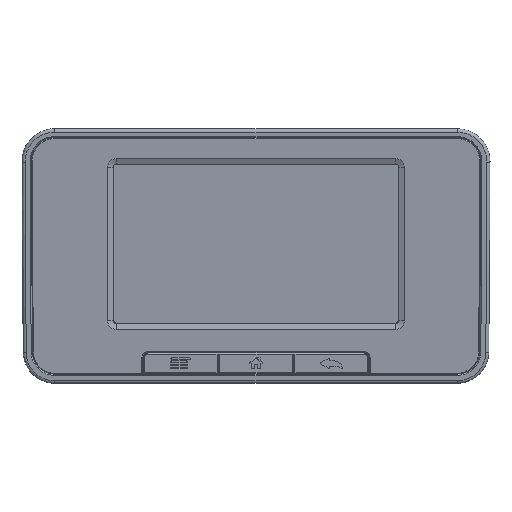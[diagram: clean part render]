
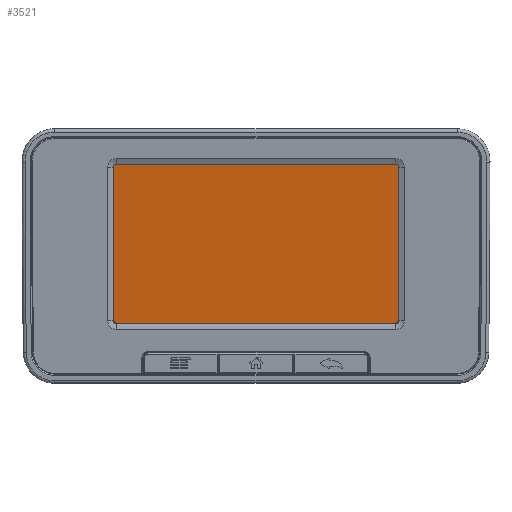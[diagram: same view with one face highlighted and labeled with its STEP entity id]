
A CAD part, top view. The second image highlights one B-rep face of the part: STEP entity #3521.
In plain terms, the highlighted planar face has unit normal (0, -0.174, 0.985).
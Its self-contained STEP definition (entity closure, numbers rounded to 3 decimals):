
#18 = LINE ( 'NONE', #7805, #476 ) ;
#132 = AXIS2_PLACEMENT_3D ( 'NONE', #8923, #2160, #5631 ) ;
#181 = VERTEX_POINT ( 'NONE', #10947 ) ;
#285 = CARTESIAN_POINT ( 'NONE',  ( 47.509, -20.996, 16.254 ) ) ;
#457 = DIRECTION ( 'NONE',  ( 1., 0., 0. ) ) ;
#476 = VECTOR ( 'NONE', #754, 1000. ) ;
#754 = DIRECTION ( 'NONE',  ( 0., -0.985, -0.174 ) ) ;
#1103 = ORIENTED_EDGE ( 'NONE', *, *, #4856, .F. ) ;
#1176 = DIRECTION ( 'NONE',  ( 0., 0.174, -0.985 ) ) ;
#1227 = VERTEX_POINT ( 'NONE', #4828 ) ;
#1576 = EDGE_CURVE ( 'NONE', #1971, #1227, #3680, .T. ) ;
#1971 = VERTEX_POINT ( 'NONE', #6151 ) ;
#2032 = VERTEX_POINT ( 'NONE', #3595 ) ;
#2160 = DIRECTION ( 'NONE',  ( 0., -0.174, 0.985 ) ) ;
#2198 = DIRECTION ( 'NONE',  ( 0., 0.174, -0.985 ) ) ;
#2334 = AXIS2_PLACEMENT_3D ( 'NONE', #9593, #5204, #5993 ) ;
#2499 = VERTEX_POINT ( 'NONE', #11009 ) ;
#2632 = ORIENTED_EDGE ( 'NONE', *, *, #10254, .F. ) ;
#3017 = FACE_OUTER_BOUND ( 'NONE', #4719, .T. ) ;
#3416 = CIRCLE ( 'NONE', #11055, 1.063 ) ;
#3521 = ADVANCED_FACE ( 'NONE', ( #3017 ), #10605, .T. ) ;
#3595 = CARTESIAN_POINT ( 'NONE',  ( -47.509, -20.996, 16.254 ) ) ;
#3680 = CIRCLE ( 'NONE', #5661, 1.063 ) ;
#3741 = DIRECTION ( 'NONE',  ( 0., 0.985, 0.174 ) ) ;
#3907 = ORIENTED_EDGE ( 'NONE', *, *, #6128, .F. ) ;
#4075 = ORIENTED_EDGE ( 'NONE', *, *, #9436, .F. ) ;
#4088 = DIRECTION ( 'NONE',  ( 0., -0.985, -0.174 ) ) ;
#4164 = CARTESIAN_POINT ( 'NONE',  ( -46.446, -22.042, 16.07 ) ) ;
#4576 = CARTESIAN_POINT ( 'NONE',  ( 46.446, 30.974, 25.418 ) ) ;
#4719 = EDGE_LOOP ( 'NONE', ( #10323, #1103, #9182, #4075, #3907, #2632, #5282, #9403 ) ) ;
#4828 = CARTESIAN_POINT ( 'NONE',  ( 47.509, 29.927, 25.233 ) ) ;
#4856 = EDGE_CURVE ( 'NONE', #1227, #11081, #18, .T. ) ;
#4989 = CARTESIAN_POINT ( 'NONE',  ( 46.446, 29.927, 25.233 ) ) ;
#5204 = DIRECTION ( 'NONE',  ( 0., 0.174, -0.985 ) ) ;
#5274 = VECTOR ( 'NONE', #9268, 1000. ) ;
#5282 = ORIENTED_EDGE ( 'NONE', *, *, #7396, .F. ) ;
#5631 = DIRECTION ( 'NONE',  ( 0., -0.985, -0.174 ) ) ;
#5661 = AXIS2_PLACEMENT_3D ( 'NONE', #4989, #2198, #4088 ) ;
#5990 = AXIS2_PLACEMENT_3D ( 'NONE', #10185, #9326, #11225 ) ;
#5993 = DIRECTION ( 'NONE',  ( 0., -0.985, -0.174 ) ) ;
#6122 = VERTEX_POINT ( 'NONE', #10689 ) ;
#6128 = EDGE_CURVE ( 'NONE', #181, #2499, #3416, .T. ) ;
#6151 = CARTESIAN_POINT ( 'NONE',  ( 46.446, 30.974, 25.418 ) ) ;
#6407 = DIRECTION ( 'NONE',  ( 0., -0.985, -0.174 ) ) ;
#7234 = CIRCLE ( 'NONE', #2334, 1.063 ) ;
#7396 = EDGE_CURVE ( 'NONE', #6122, #2032, #7234, .T. ) ;
#7628 = CARTESIAN_POINT ( 'NONE',  ( 46.446, -22.042, 16.07 ) ) ;
#7805 = CARTESIAN_POINT ( 'NONE',  ( 47.509, -20.996, 16.254 ) ) ;
#8003 = EDGE_CURVE ( 'NONE', #10852, #6122, #8458, .T. ) ;
#8076 = EDGE_CURVE ( 'NONE', #11081, #10852, #8526, .T. ) ;
#8109 = CARTESIAN_POINT ( 'NONE',  ( -47.509, 29.927, 25.233 ) ) ;
#8458 = LINE ( 'NONE', #4164, #5274 ) ;
#8526 = CIRCLE ( 'NONE', #5990, 1.063 ) ;
#8851 = VECTOR ( 'NONE', #3741, 1000. ) ;
#8923 = CARTESIAN_POINT ( 'NONE',  ( 71.886, -36.22, 13.57 ) ) ;
#8957 = CARTESIAN_POINT ( 'NONE',  ( -46.446, 29.927, 25.233 ) ) ;
#9096 = LINE ( 'NONE', #4576, #10265 ) ;
#9182 = ORIENTED_EDGE ( 'NONE', *, *, #1576, .F. ) ;
#9268 = DIRECTION ( 'NONE',  ( -1., 0., 0. ) ) ;
#9326 = DIRECTION ( 'NONE',  ( 0., 0.174, -0.985 ) ) ;
#9403 = ORIENTED_EDGE ( 'NONE', *, *, #8003, .F. ) ;
#9436 = EDGE_CURVE ( 'NONE', #2499, #1971, #9096, .T. ) ;
#9593 = CARTESIAN_POINT ( 'NONE',  ( -46.446, -20.996, 16.254 ) ) ;
#10185 = CARTESIAN_POINT ( 'NONE',  ( 46.446, -20.996, 16.254 ) ) ;
#10254 = EDGE_CURVE ( 'NONE', #2032, #181, #10585, .T. ) ;
#10265 = VECTOR ( 'NONE', #457, 1000. ) ;
#10323 = ORIENTED_EDGE ( 'NONE', *, *, #8076, .F. ) ;
#10585 = LINE ( 'NONE', #8109, #8851 ) ;
#10605 = PLANE ( 'NONE',  #132 ) ;
#10689 = CARTESIAN_POINT ( 'NONE',  ( -46.446, -22.042, 16.07 ) ) ;
#10852 = VERTEX_POINT ( 'NONE', #7628 ) ;
#10947 = CARTESIAN_POINT ( 'NONE',  ( -47.509, 29.927, 25.233 ) ) ;
#11009 = CARTESIAN_POINT ( 'NONE',  ( -46.446, 30.974, 25.418 ) ) ;
#11055 = AXIS2_PLACEMENT_3D ( 'NONE', #8957, #1176, #6407 ) ;
#11081 = VERTEX_POINT ( 'NONE', #285 ) ;
#11225 = DIRECTION ( 'NONE',  ( 0., -0.985, -0.174 ) ) ;
